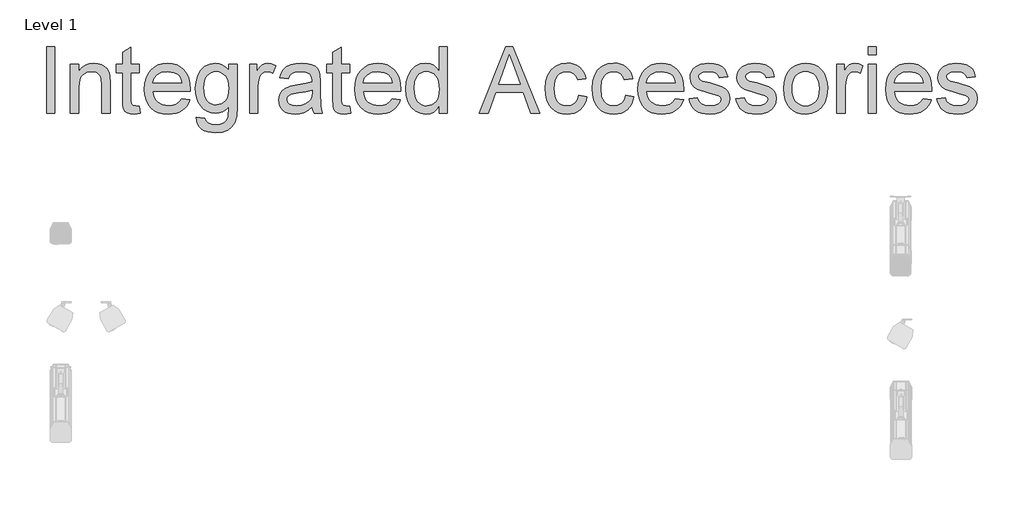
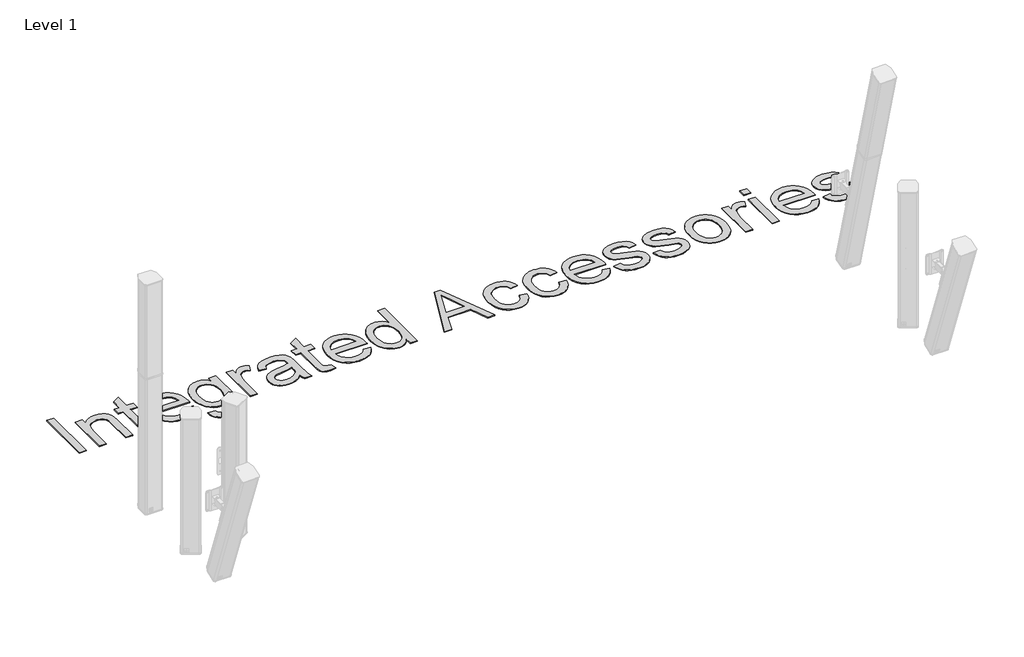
# One storey, part 4 of 8: 1 proxy.
"""IFC4 building model written with IfcOpenShell, lengths in millimetres."""

from ifc_helpers import new_model, si_unit, origin, origin_with_axes, place, context, project, spatial, polyline, outline, extrude, element, save

model = new_model("IFC4")

# Units and contexts
model_context = context("Model", 3, world=origin())
ifc_project = project(units=[si_unit("LENGTHUNIT", "METRE", prefix="MILLI")], contexts=[model_context])

# Site, building, storey
site = spatial("IfcSite", under=ifc_project)
building = spatial("IfcBuilding", under=site)
storey = spatial("IfcBuildingStorey", under=building, Name="Level 1", Elevation=0.0)

# Proxy
placement = place(None, origin())
element("IfcBuildingElementProxy", 1, Name="400mm Arial", ObjectType="400mm Arial", at=placement, inside=storey, context=model_context, shape_type="SweptSolid", body=[
    extrude(outline(polyline([(-11437.7764845, 12851.3054836), (-11437.7764845, 13243.0630593), (-11388.8067875, 13243.0630593), (-11388.8067875, 12851.3054836), (-11437.7764845, 12851.3054836)])), origin_with_axes(), (0.0, 0.0, 1.0), 5.0),
    extrude(outline(polyline([(-11296.9886057, 12851.3054836), (-11296.9886057, 13139.0024533), (-11248.0189088, 13139.0024533), (-11248.0189088, 13098.8319987), (-11231.006243, 13119.0846029), (-11210.5743065, 13133.5507487), (-11186.7230991, 13142.2304362), (-11159.4526209, 13145.1236654), (-11135.3144817, 13142.7923444), (-11113.2087762, 13135.7983813), (-11094.7734069, 13125.0145271), (-11081.6462762, 13111.3135328), (-11072.7394343, 13094.7312648), (-11066.9649315, 13075.3035896), (-11064.3825451, 13027.9598396), (-11064.3825451, 12851.3054836), (-11113.3522421, 12851.3054836), (-11113.3522421, 13021.3604078), (-11114.7629902, 13046.6821408), (-11118.9952345, 13064.6871124), (-11126.8021711, 13077.5870887), (-11138.9369959, 13087.5938358), (-11154.4910915, 13094.0139353), (-11172.5558406, 13096.1539684), (-11201.2370669, 13091.3478605), (-11225.6860489, 13076.9295366), (-11235.4566751, 13065.1593543), (-11242.4356938, 13049.0732393), (-11246.623105, 13028.6711914), (-11248.0189088, 13003.9532108), (-11248.0189088, 12851.3054836), (-11296.9886057, 12851.3054836)])), origin_with_axes(), (0.0, 0.0, 1.0), 5.0),
    extrude(outline(polyline([(-10892.9886057, 12892.1454457), (-10886.8673936, 12849.8708245), (-10923.4990224, 12845.1842715), (-10947.0035205, 12847.2167052), (-10964.5302724, 12853.3140063), (-10976.9161625, 12862.7110233), (-10984.9980754, 12874.6426048), (-10989.4455186, 12895.1343188), (-10990.9279997, 12930.2117336), (-10990.9279997, 13090.0327563), (-11027.6552724, 13090.0327563), (-11027.6552724, 13139.0024533), (-10990.9279997, 13139.0024533), (-10990.9279997, 13208.918173), (-10941.9583027, 13237.7069987), (-10941.9583027, 13139.0024533), (-10892.9886057, 13139.0024533), (-10892.9886057, 13090.0327563), (-10941.9583027, 13090.0327563), (-10941.9583027, 12931.6463927), (-10939.3759163, 12906.3963927), (-10931.0070716, 12897.4536843), (-10914.3172042, 12894.1539684), (-10892.9886057, 12892.1454457)])), origin_with_axes(), (0.0, 0.0, 1.0), 5.0),
    extrude(outline(polyline([(-10642.5927724, 12937.0024533), (-10594.5795148, 12930.8812411), (-10601.9411093, 12911.6508316), (-10611.8791124, 12894.7039211), (-10624.3935241, 12880.0405096), (-10639.4843444, 12867.6605972), (-10656.9961519, 12857.8272047), (-10676.7735252, 12850.8033529), (-10723.1249694, 12845.1842715), (-10753.5098534, 12847.6082475), (-10780.583066, 12854.8801758), (-10804.3446071, 12867.0000563), (-10824.7944769, 12883.9678889), (-10841.2392568, 12905.3114317), (-10852.9855281, 12930.5584429), (-10860.0332909, 12959.7089223), (-10862.3825451, 12992.7628699), (-10860.0093799, 13026.937645), (-10852.8898841, 13057.0595082), (-10841.0240579, 13083.1284594), (-10824.4119012, 13105.1444987), (-10804.0158311, 13122.6353841), (-10780.7982648, 13135.1288737), (-10754.7592023, 13142.6249675), (-10725.8986436, 13145.1236654), (-10697.9676244, 13142.6309452), (-10672.7086578, 13135.1527847), (-10650.1217438, 13122.6891839), (-10630.2068822, 13105.2401427), (-10613.9504014, 13083.2719253), (-10602.3386294, 13057.2507961), (-10595.3715662, 13027.1767549), (-10593.0492118, 12993.0498018), (-10593.3361436, 12979.8509381), (-10813.4128482, 12979.8509381), (-10810.5764076, 12960.3096858), (-10804.936404, 12943.1953983), (-10796.4928375, 12928.5080759), (-10785.245708, 12916.2477184), (-10756.8275025, 12899.6774059), (-10722.16853, 12894.1539684), (-10696.1055565, 12896.7124438), (-10674.1552724, 12904.3878699), (-10656.3176777, 12917.6584665), (-10642.5927724, 12937.0024533)]), holes=[polyline([(-10813.4128482, 13028.8206351), (-10642.0189088, 13028.8206351), (-10648.6422516, 13054.6923207), (-10661.6259163, 13073.199423), (-10674.9802014, 13083.2420366), (-10690.1756322, 13090.4153321), (-10726.0899315, 13096.1539684), (-10759.0990461, 13091.5750148), (-10786.3934353, 13077.838154), (-10805.3668018, 13056.4258671), (-10813.4128482, 13028.8206351)])]), origin_with_axes(), (0.0, 0.0, 1.0), 5.0),
    extrude(outline(polyline([(-10556.3219391, 12826.8206351), (-10507.3522421, 12820.699423), (-10501.9483595, 12805.3963927), (-10491.4753482, 12794.8755593), (-10470.8879902, 12786.6980025), (-10443.9403103, 12783.9721502), (-10415.1993065, 12787.0566673), (-10393.822886, 12796.3102184), (-10378.9980754, 12811.135029), (-10369.9119012, 12830.9333245), (-10366.5643633, 12888.0327563), (-10382.8596995, 12871.9645745), (-10401.0440035, 12860.4873018), (-10421.1172752, 12853.6009381), (-10443.0795148, 12851.3054836), (-10469.9285619, 12853.9775361), (-10493.5675593, 12861.9936938), (-10513.996507, 12875.3539566), (-10531.215405, 12894.0583245), (-10544.8775439, 12916.4987838), (-10554.6362146, 12941.0673207), (-10560.491417, 12967.7639353), (-10562.4431512, 12996.5886275), (-10558.9401919, 13036.125441), (-10548.4313141, 13072.4820934), (-10531.2871379, 13103.2913974), (-10507.8782838, 13126.1861654), (-10479.0057696, 13140.3892904), (-10445.4706133, 13145.1236654), (-10422.5698676, 13142.4456351), (-10401.785244, 13134.4115442), (-10383.1167426, 13121.0213927), (-10366.5643633, 13102.2751805), (-10366.5643633, 13139.0024533), (-10317.5946663, 13139.0024533), (-10317.5946663, 12890.6151427), (-10320.9422042, 12833.2646455), (-10330.9848179, 12795.4972449), (-10348.2844154, 12770.4504883), (-10373.402905, 12751.261923), (-10405.7903339, 12739.0673207), (-10444.8967497, 12735.0024533), (-10490.4591313, 12740.7291341), (-10509.6088413, 12747.8874852), (-10526.3375641, 12757.9091768), (-10539.8502594, 12770.8061642), (-10549.351887, 12786.5904031), (-10554.8424469, 12805.2618934), (-10556.3219391, 12826.8206351)]), holes=[polyline([(-10513.4734542, 12999.9361654), (-10508.248904, 12955.0193804), (-10501.7182163, 12937.8243934), (-10492.5752535, 12924.1383434), (-10481.4596344, 12913.6982097), (-10469.0109779, 12906.2409713), (-10455.229284, 12901.7666282), (-10440.1145527, 12900.2751805), (-10411.4333264, 12906.2051048), (-10387.7494959, 12923.9948775), (-10378.4810004, 12937.5464282), (-10371.8606464, 12954.4813832), (-10366.5643633, 12998.5015063), (-10372.0160679, 13040.9554599), (-10378.8306985, 13057.7260269), (-10388.3711815, 13071.525654), (-10412.4017213, 13089.9968898), (-10426.0847823, 13094.6146988), (-10440.8797042, 13096.1539684), (-10455.4265496, 13094.6386098), (-10468.843601, 13090.0925338), (-10492.2883216, 13071.9082298), (-10501.5568171, 13058.3178238), (-10508.1771711, 13041.7923444), (-10513.4734542, 12999.9361654)])]), origin_with_axes(), (0.0, 0.0, 1.0), 5.0),
    extrude(outline(polyline([(-10244.1401209, 12851.3054836), (-10244.1401209, 13139.0024533), (-10201.291636, 13139.0024533), (-10201.291636, 13096.4409002), (-10185.4625641, 13121.1170366), (-10170.8768633, 13135.6549154), (-10156.2433406, 13142.7564779), (-10140.2708027, 13145.1236654), (-10115.8815982, 13141.3457298), (-10091.1098179, 13130.011923), (-10107.4649315, 13086.1113548), (-10124.6808406, 13093.643315), (-10141.8967497, 13096.1539684), (-10156.5183169, 13093.738959), (-10169.5856701, 13086.4939305), (-10180.1423699, 13074.9688358), (-10187.2319769, 13059.7136275), (-10193.1858122, 13032.3594608), (-10195.1704239, 13002.5185518), (-10195.1704239, 12851.3054836), (-10244.1401209, 12851.3054836)])), origin_with_axes(), (0.0, 0.0, 1.0), 5.0),
    extrude(outline(polyline([(-9876.8673936, 12888.0327563), (-9900.2642923, 12867.97144), (-9924.3546095, 12854.8443093), (-9949.688298, 12847.5992809), (-9976.8153103, 12845.1842715), (-9998.6191396, 12846.6368638), (-10017.7389608, 12850.9946408), (-10034.1747741, 12858.2576024), (-10047.9265792, 12868.4257487), (-10058.7851552, 12880.8534831), (-10066.5412809, 12894.895209), (-10071.1949563, 12910.5509263), (-10072.7461815, 12927.8206351), (-10070.402905, 12948.1210612), (-10063.3730754, 12966.5564305), (-10052.5294438, 12982.3376805), (-10038.744761, 12994.6757487), (-10004.4564088, 13010.7439305), (-9962.0861436, 13018.1085139), (-9912.0165413, 13025.855673), (-9877.1543254, 13034.9418472), (-9876.8673936, 13045.8452563), (-9880.2388425, 13067.6998965), (-9890.3531891, 13081.9986654), (-9912.9729807, 13092.6151427), (-9944.4876588, 13096.1539684), (-9973.6590603, 13093.7987364), (-9994.0312194, 13086.7330404), (-10007.9235016, 13073.6656872), (-10017.6552724, 13053.3054836), (-10066.6249694, 13059.4266957), (-10058.1246143, 13086.2069987), (-10045.4398368, 13107.2486654), (-10027.3870432, 13123.3407582), (-10002.7826398, 13135.2723396), (-9972.6906654, 13142.660834), (-9938.1751588, 13145.1236654), (-9905.0704002, 13142.9477658), (-9878.8280944, 13136.4200669), (-9859.0417544, 13126.6046076), (-9845.3048936, 13114.5654268), (-9836.1948084, 13099.6808387), (-9830.2887951, 13081.3291578), (-9827.8976966, 13038.480673), (-9827.8976966, 12977.5554836), (-9825.4109542, 12892.4801995), (-9815.6552724, 12851.3054836), (-9864.6249694, 12851.3054836), (-9872.4677724, 12868.3301048), (-9876.8673936, 12888.0327563)]), holes=[polyline([(-9876.8673936, 12985.9721502), (-9909.7689088, 12977.8185044), (-9955.8692875, 12970.9560518), (-9998.0004429, 12963.0176048), (-10008.9636294, 12957.5898112), (-10017.0814088, 12950.105673), (-10022.1027156, 12941.1390536), (-10023.7764845, 12931.2638169), (-10020.1300593, 12916.7020271), (-10009.1907838, 12904.7704457), (-9991.1977677, 12896.8080877), (-9966.3901209, 12894.1539684), (-9940.0880375, 12897.0830641), (-9916.8465603, 12905.870351), (-9898.0047042, 12918.8181493), (-9884.9014845, 12934.228779), (-9879.0911152, 12950.105673), (-9877.1543254, 12972.103779), (-9876.8673936, 12985.9721502)])]), origin_with_axes(), (0.0, 0.0, 1.0), 5.0),
    extrude(outline(polyline([(-9656.5037572, 12892.1454457), (-9650.3825451, 12849.8708245), (-9687.0141739, 12845.1842715), (-9710.518672, 12847.2167052), (-9728.0454239, 12853.3140063), (-9740.4313141, 12862.7110233), (-9748.5132269, 12874.6426048), (-9752.9606701, 12895.1343188), (-9754.4431512, 12930.2117336), (-9754.4431512, 13090.0327563), (-9791.1704239, 13090.0327563), (-9791.1704239, 13139.0024533), (-9754.4431512, 13139.0024533), (-9754.4431512, 13208.918173), (-9705.4734542, 13237.7069987), (-9705.4734542, 13139.0024533), (-9656.5037572, 13139.0024533), (-9656.5037572, 13090.0327563), (-9705.4734542, 13090.0327563), (-9705.4734542, 12931.6463927), (-9702.8910679, 12906.3963927), (-9694.5222232, 12897.4536843), (-9677.8323557, 12894.1539684), (-9656.5037572, 12892.1454457)])), origin_with_axes(), (0.0, 0.0, 1.0), 5.0),
    extrude(outline(polyline([(-9406.1079239, 12937.0024533), (-9358.0946663, 12930.8812411), (-9365.4562608, 12911.6508316), (-9375.3942639, 12894.7039211), (-9387.9086756, 12880.0405096), (-9402.9994959, 12867.6605972), (-9420.5113034, 12857.8272047), (-9440.2886768, 12850.8033529), (-9486.6401209, 12845.1842715), (-9517.0250049, 12847.6082475), (-9544.0982175, 12854.8801758), (-9567.8597587, 12867.0000563), (-9588.3096285, 12883.9678889), (-9604.7544083, 12905.3114317), (-9616.5006796, 12930.5584429), (-9623.5484424, 12959.7089223), (-9625.8976966, 12992.7628699), (-9623.5245314, 13026.937645), (-9616.4050357, 13057.0595082), (-9604.5392094, 13083.1284594), (-9587.9270527, 13105.1444987), (-9567.5309826, 13122.6353841), (-9544.3134163, 13135.1288737), (-9518.2743538, 13142.6249675), (-9489.4137951, 13145.1236654), (-9461.4827759, 13142.6309452), (-9436.2238093, 13135.1527847), (-9413.6368953, 13122.6891839), (-9393.7220338, 13105.2401427), (-9377.4655529, 13083.2719253), (-9365.8537809, 13057.2507961), (-9358.8867177, 13027.1767549), (-9356.5643633, 12993.0498018), (-9356.8512951, 12979.8509381), (-9576.9279997, 12979.8509381), (-9574.0915591, 12960.3096858), (-9568.4515555, 12943.1953983), (-9560.007989, 12928.5080759), (-9548.7608595, 12916.2477184), (-9520.342654, 12899.6774059), (-9485.6836815, 12894.1539684), (-9459.620708, 12896.7124438), (-9437.6704239, 12904.3878699), (-9419.8328292, 12917.6584665), (-9406.1079239, 12937.0024533)]), holes=[polyline([(-9576.9279997, 13028.8206351), (-9405.5340603, 13028.8206351), (-9412.1574031, 13054.6923207), (-9425.1410679, 13073.199423), (-9438.4953529, 13083.2420366), (-9453.6907838, 13090.4153321), (-9489.605083, 13096.1539684), (-9522.6141976, 13091.5750148), (-9549.9085868, 13077.838154), (-9568.8819533, 13056.4258671), (-9576.9279997, 13028.8206351)])]), origin_with_axes(), (0.0, 0.0, 1.0), 5.0),
    extrude(outline(polyline([(-9130.0795148, 12851.3054836), (-9130.0795148, 12897.5015063), (-9144.7309708, 12874.6127161), (-9162.4788993, 12858.2635802), (-9183.3233003, 12848.4540986), (-9207.2641739, 12845.1842715), (-9238.9223179, 12849.9186465), (-9267.9024315, 12864.1217715), (-9292.4351019, 12886.8013406), (-9310.7509163, 12916.965048), (-9322.1564561, 12953.3934334), (-9325.9583027, 12994.8670366), (-9322.4553434, 13035.8265536), (-9311.9464656, 13072.8168472), (-9294.4436247, 13103.7337506), (-9269.9587762, 13126.4730972), (-9240.3450214, 13140.4610233), (-9207.4554618, 13145.1236654), (-9183.496655, 13141.788083), (-9162.3115224, 13131.7813358), (-9144.3543728, 13116.4424391), (-9130.0795148, 13097.1104078), (-9130.0795148, 13243.0630593), (-9081.1098179, 13243.0630593), (-9081.1098179, 12851.3054836), (-9130.0795148, 12851.3054836)]), holes=[polyline([(-9276.9886057, 12995.0583245), (-9271.4651682, 12950.763225), (-9264.5608714, 12933.4128167), (-9254.8948557, 12919.2605025), (-9230.816494, 12900.4306019), (-9217.2888543, 12895.7231268), (-9202.7689088, 12894.1539684), (-9174.733279, 12900.1436701), (-9151.2646474, 12918.1127752), (-9141.9961519, 12931.6732925), (-9135.375798, 12948.3960375), (-9130.0795148, 12991.3282108), (-9135.4714419, 13038.2654741), (-9142.2113508, 13056.3362009), (-9151.6472232, 13070.8083245), (-9163.0557518, 13081.8970437), (-9175.7136294, 13089.8175574), (-9189.620856, 13094.5698657), (-9204.7774315, 13096.1539684), (-9219.5843089, 13094.632632), (-9233.1119485, 13090.0686228), (-9245.3603505, 13082.4619407), (-9256.3295148, 13071.8125858), (-9265.3678671, 13057.887426), (-9271.823833, 13040.4533292), (-9276.9886057, 12995.0583245)])]), origin_with_axes(), (0.0, 0.0, 1.0), 5.0),
    extrude(outline(polyline([(-8894.1259163, 12851.3054836), (-8737.7480754, 13243.0630593), (-8696.0473179, 13243.0630593), (-8539.6694769, 12851.3054836), (-8591.4128482, 12851.3054836), (-8636.2698557, 12973.729726), (-8797.6211815, 12973.729726), (-8842.3825451, 12851.3054836), (-8894.1259163, 12851.3054836)]), holes=[polyline([(-8779.6401209, 13022.699423), (-8654.1552724, 13022.699423), (-8689.447886, 13119.0128699), (-8716.8976966, 13194.0933624), (-8741.2869012, 13127.4295366), (-8779.6401209, 13022.699423)])]), origin_with_axes(), (0.0, 0.0, 1.0), 5.0),
    extrude(outline(polyline([(-8309.8370906, 12955.3660896), (-8260.8673936, 12949.2448775), (-8266.1935655, 12926.1378995), (-8274.520566, 12905.6910186), (-8285.848395, 12887.9042348), (-8300.1770527, 12872.777548), (-8316.9027866, 12860.7054895), (-8335.4218444, 12852.0825906), (-8355.734226, 12846.9088512), (-8377.8399315, 12845.1842715), (-8405.3046865, 12847.5903143), (-8429.930012, 12854.8084429), (-8451.715908, 12866.8386571), (-8470.6623747, 12883.6809571), (-8485.9982826, 12905.0185222), (-8496.9525025, 12930.5345319), (-8503.5250345, 12960.2289862), (-8505.7158785, 12994.1018851), (-8501.9738093, 13037.679655), (-8490.7476019, 13075.4470555), (-8471.8579239, 13105.9455167), (-8445.1254429, 13127.7164684), (-8413.1445006, 13140.7718661), (-8378.5094391, 13145.1236654), (-8356.7833205, 13143.6292288), (-8337.1314798, 13139.1459192), (-8319.553917, 13131.6737364), (-8304.0506322, 13121.2126805), (-8290.8846462, 13108.0018614), (-8280.3189798, 13092.2803889), (-8272.353633, 13074.0482629), (-8266.9886057, 13053.3054836), (-8315.9583027, 13047.1842715), (-8324.8412336, 13068.5487364), (-8338.6737383, 13083.8637222), (-8356.6906654, 13093.0814069), (-8378.1268633, 13096.1539684), (-8394.7659199, 13094.6415986), (-8409.7730518, 13090.1044893), (-8423.1482589, 13082.5426403), (-8434.8915413, 13071.9560518), (-8444.4529464, 13058.099636), (-8451.2825214, 13040.7283055), (-8456.7461815, 12995.4409002), (-8451.4020764, 12949.5437648), (-8444.721945, 12932.0558683), (-8435.369761, 12918.2084192), (-8423.8596107, 12907.684597), (-8410.7055802, 12900.1675811), (-8395.9076694, 12895.6573716), (-8379.4658785, 12894.1539684), (-8354.108279, 12897.907993), (-8333.3176777, 12909.1700669), (-8318.1939798, 12928.2271218), (-8309.8370906, 12955.3660896)])), origin_with_axes(), (0.0, 0.0, 1.0), 5.0),
    extrude(outline(polyline([(-8034.3825451, 12955.3660896), (-7985.4128482, 12949.2448775), (-7990.73902, 12926.1378995), (-7999.0660205, 12905.6910186), (-8010.3938496, 12887.9042348), (-8024.7225072, 12872.777548), (-8041.4482411, 12860.7054895), (-8059.9672989, 12852.0825906), (-8080.2796805, 12846.9088512), (-8102.385386, 12845.1842715), (-8129.850141, 12847.5903143), (-8154.4754665, 12854.8084429), (-8176.2613626, 12866.8386571), (-8195.2078292, 12883.6809571), (-8210.5437371, 12905.0185222), (-8221.4979571, 12930.5345319), (-8228.070489, 12960.2289862), (-8230.261333, 12994.1018851), (-8226.5192639, 13037.679655), (-8215.2930565, 13075.4470555), (-8196.4033785, 13105.9455167), (-8169.6708974, 13127.7164684), (-8137.6899552, 13140.7718661), (-8103.0548936, 13145.1236654), (-8081.328775, 13143.6292288), (-8061.6769343, 13139.1459192), (-8044.0993716, 13131.6737364), (-8028.5960868, 13121.2126805), (-8015.4301008, 13108.0018614), (-8004.8644343, 13092.2803889), (-7996.8990875, 13074.0482629), (-7991.5340603, 13053.3054836), (-8040.5037572, 13047.1842715), (-8049.3866881, 13068.5487364), (-8063.2191929, 13083.8637222), (-8081.2361199, 13093.0814069), (-8102.6723179, 13096.1539684), (-8119.3113744, 13094.6415986), (-8134.3185063, 13090.1044893), (-8147.6937134, 13082.5426403), (-8159.4369959, 13071.9560518), (-8168.9984009, 13058.099636), (-8175.827976, 13040.7283055), (-8181.291636, 12995.4409002), (-8175.9475309, 12949.5437648), (-8169.2673995, 12932.0558683), (-8159.9152156, 12918.2084192), (-8148.4050652, 12907.684597), (-8135.2510347, 12900.1675811), (-8120.453124, 12895.6573716), (-8104.011333, 12894.1539684), (-8078.6537336, 12897.907993), (-8057.8631322, 12909.1700669), (-8042.7394343, 12928.2271218), (-8034.3825451, 12955.3660896)])), origin_with_axes(), (0.0, 0.0, 1.0), 5.0),
    extrude(outline(polyline([(-7741.1382269, 12937.0024533), (-7693.1249694, 12930.8812411), (-7700.4865638, 12911.6508316), (-7710.4245669, 12894.7039211), (-7722.9389786, 12880.0405096), (-7738.0297989, 12867.6605972), (-7755.5416064, 12857.8272047), (-7775.3189798, 12850.8033529), (-7821.6704239, 12845.1842715), (-7852.0553079, 12847.6082475), (-7879.1285205, 12854.8801758), (-7902.8900617, 12867.0000563), (-7923.3399315, 12883.9678889), (-7939.7847113, 12905.3114317), (-7951.5309826, 12930.5584429), (-7958.5787454, 12959.7089223), (-7960.9279997, 12992.7628699), (-7958.5548344, 13026.937645), (-7951.4353387, 13057.0595082), (-7939.5695125, 13083.1284594), (-7922.9573557, 13105.1444987), (-7902.5612857, 13122.6353841), (-7879.3437194, 13135.1288737), (-7853.3046569, 13142.6249675), (-7824.4440982, 13145.1236654), (-7796.513079, 13142.6309452), (-7771.2541124, 13135.1527847), (-7748.6671983, 13122.6891839), (-7728.7523368, 13105.2401427), (-7712.495856, 13083.2719253), (-7700.8840839, 13057.2507961), (-7693.9170207, 13027.1767549), (-7691.5946663, 12993.0498018), (-7691.8815982, 12979.8509381), (-7911.9583027, 12979.8509381), (-7909.1218621, 12960.3096858), (-7903.4818586, 12943.1953983), (-7895.038292, 12928.5080759), (-7883.7911625, 12916.2477184), (-7855.3729571, 12899.6774059), (-7820.7139845, 12894.1539684), (-7794.651011, 12896.7124438), (-7772.7007269, 12904.3878699), (-7754.8631322, 12917.6584665), (-7741.1382269, 12937.0024533)]), holes=[polyline([(-7911.9583027, 13028.8206351), (-7740.5643633, 13028.8206351), (-7747.1877061, 13054.6923207), (-7760.1713709, 13073.199423), (-7773.5256559, 13083.2420366), (-7788.7210868, 13090.4153321), (-7824.635386, 13096.1539684), (-7857.6445006, 13091.5750148), (-7884.9388898, 13077.838154), (-7903.9122563, 13056.4258671), (-7911.9583027, 13028.8206351)])]), origin_with_axes(), (0.0, 0.0, 1.0), 5.0),
    extrude(outline(polyline([(-7660.9886057, 12937.0024533), (-7612.0189088, 12943.1236654), (-7604.2956607, 12922.1776427), (-7589.3512951, 12906.7789684), (-7567.0901682, 12897.3102184), (-7537.416636, 12894.1539684), (-7508.1017686, 12897.0471976), (-7487.4904997, 12905.7268851), (-7475.2958974, 12918.3040631), (-7471.23103, 12932.8897639), (-7475.3198084, 12945.371298), (-7487.5861436, 12954.8878699), (-7537.9904997, 12968.8518851), (-7611.7319769, 12992.8106919), (-7630.3945006, 13004.8498728), (-7643.9161625, 13020.7865442), (-7652.1295858, 13039.6044893), (-7654.8673936, 13060.2874911), (-7652.667583, 13079.2608576), (-7646.0681512, 13096.775654), (-7635.6668728, 13112.1384618), (-7622.0615224, 13124.6558624), (-7590.9294201, 13139.1459192), (-7548.7982648, 13145.1236654), (-7516.924922, 13142.7206114), (-7489.2120906, 13135.5114495), (-7466.9270527, 13124.2015536), (-7451.3370906, 13109.496298), (-7441.0075451, 13090.3077326), (-7434.5037572, 13065.5479078), (-7483.4734542, 13059.4266957), (-7489.6544438, 13074.8373254), (-7501.8849125, 13086.4461086), (-7520.2844154, 13093.7270035), (-7544.9725072, 13096.1539684), (-7573.0918254, 13093.8346029), (-7591.8380375, 13086.8765063), (-7602.3827819, 13076.8338927), (-7605.8976966, 13065.260976), (-7600.0634163, 13051.010029), (-7581.7954239, 13040.2022639), (-7539.6164466, 13029.7770745), (-7467.7400262, 13006.7268851), (-7448.7547042, 12995.7039211), (-7434.3602913, 12980.6160896), (-7425.2860726, 12961.4155688), (-7422.261333, 12938.0545366), (-7425.8121143, 12913.9044419), (-7436.464458, 12891.1890063), (-7453.8118775, 12871.6895982), (-7477.447886, 12857.1875858), (-7505.9976019, 12848.1851), (-7538.0861436, 12845.1842715), (-7564.4420267, 12846.630886), (-7587.4623273, 12850.9707298), (-7607.1470456, 12858.2038027), (-7623.4961815, 12868.3301048), (-7636.8504665, 12881.3018141), (-7647.5506322, 12897.0711086), (-7655.5966786, 12915.6379883), (-7660.9886057, 12937.0024533)])), origin_with_axes(), (0.0, 0.0, 1.0), 5.0),
    extrude(outline(polyline([(-7385.5340603, 12937.0024533), (-7336.5643633, 12943.1236654), (-7328.8411152, 12922.1776427), (-7313.8967497, 12906.7789684), (-7291.6356228, 12897.3102184), (-7261.9620906, 12894.1539684), (-7232.6472232, 12897.0471976), (-7212.0359542, 12905.7268851), (-7199.8413519, 12918.3040631), (-7195.7764845, 12932.8897639), (-7199.8652629, 12945.371298), (-7212.1315982, 12954.8878699), (-7262.5359542, 12968.8518851), (-7336.2774315, 12992.8106919), (-7354.9399552, 13004.8498728), (-7368.4616171, 13020.7865442), (-7376.6750404, 13039.6044893), (-7379.4128482, 13060.2874911), (-7377.2130375, 13079.2608576), (-7370.6136057, 13096.775654), (-7360.2123273, 13112.1384618), (-7346.6069769, 13124.6558624), (-7315.4748747, 13139.1459192), (-7273.3437194, 13145.1236654), (-7241.4703766, 13142.7206114), (-7213.7575451, 13135.5114495), (-7191.4725072, 13124.2015536), (-7175.8825451, 13109.496298), (-7165.5529997, 13090.3077326), (-7159.0492118, 13065.5479078), (-7208.0189088, 13059.4266957), (-7214.1998983, 13074.8373254), (-7226.4303671, 13086.4461086), (-7244.8298699, 13093.7270035), (-7269.5179618, 13096.1539684), (-7297.63728, 13093.8346029), (-7316.3834921, 13086.8765063), (-7326.9282364, 13076.8338927), (-7330.4431512, 13065.260976), (-7324.6088709, 13051.010029), (-7306.3408785, 13040.2022639), (-7264.1619012, 13029.7770745), (-7192.2854807, 13006.7268851), (-7173.3001588, 12995.7039211), (-7158.9057459, 12980.6160896), (-7149.8315271, 12961.4155688), (-7146.8067875, 12938.0545366), (-7150.3575688, 12913.9044419), (-7161.0099125, 12891.1890063), (-7178.3573321, 12871.6895982), (-7201.9933406, 12857.1875858), (-7230.5430565, 12848.1851), (-7262.6315982, 12845.1842715), (-7288.9874812, 12846.630886), (-7312.0077819, 12850.9707298), (-7331.6925001, 12858.2038027), (-7348.041636, 12868.3301048), (-7361.3959211, 12881.3018141), (-7372.0960868, 12897.0711086), (-7380.1421332, 12915.6379883), (-7385.5340603, 12937.0024533)])), origin_with_axes(), (0.0, 0.0, 1.0), 5.0),
    extrude(outline(polyline([(-7103.9583027, 12995.1539684), (-7101.3101611, 13032.4132606), (-7093.3657364, 13064.5197355), (-7080.1250286, 13091.4733931), (-7061.5880375, 13113.2742336), (-7042.9255139, 13127.20836), (-7022.3262004, 13137.1613074), (-6999.7900972, 13143.1330759), (-6975.3172042, 13145.1236654), (-6948.3007802, 13142.6996893), (-6923.8727203, 13135.427761), (-6902.0330245, 13123.3078806), (-6882.7816929, 13106.340048), (-6867.0691869, 13085.0981268), (-6855.8459684, 13060.1559807), (-6849.1120373, 13031.5136098), (-6846.8673936, 12999.1710139), (-6850.8366171, 12949.6991862), (-6862.7442875, 12912.0393851), (-6882.2436957, 12883.8363785), (-6908.9881322, 12862.7349343), (-6940.7538756, 12849.5719372), (-6975.3172042, 12845.1842715), (-7002.7281595, 12847.5992809), (-7027.3833737, 12854.8443093), (-7049.282847, 12866.9193567), (-7068.4265792, 12883.824423), (-7083.9717082, 12905.2725764), (-7095.0753718, 12930.9768851), (-7101.73757, 12960.9373491), (-7103.9583027, 12995.1539684)]), holes=[polyline([(-7054.9886057, 12995.2496124), (-7053.5718799, 12971.4970378), (-7049.3217023, 12950.9306019), (-7042.2380731, 12933.5503048), (-7032.3209921, 12919.3561465), (-7020.2579002, 12908.3301936), (-7006.7362383, 12900.4545129), (-6991.7560063, 12895.7291045), (-6975.3172042, 12894.1539684), (-6958.9620906, 12895.7380712), (-6944.041636, 12900.4903794), (-6930.5558406, 12908.4108931), (-6918.5047042, 12919.4996124), (-6908.5876232, 12933.8342478), (-6901.503994, 12951.4925101), (-6897.2538164, 12972.4743993), (-6895.8370906, 12996.7799154), (-6897.262783, 13019.7792939), (-6901.5398605, 13039.8077326), (-6908.6683228, 13056.8652314), (-6918.6481701, 13070.9517904), (-6930.7441396, 13081.9777433), (-6944.2209684, 13089.8534239), (-6959.0786566, 13094.5788323), (-6975.3172042, 13096.1539684), (-6991.7560063, 13094.58481), (-7006.7362383, 13089.8773349), (-7020.2579002, 13082.031543), (-7032.3209921, 13071.0474343), (-7042.2380731, 13056.8951202), (-7049.3217023, 13039.5447118), (-7053.5718799, 13018.9962092), (-7054.9886057, 12995.2496124)])]), origin_with_axes(), (0.0, 0.0, 1.0), 5.0),
    extrude(outline(polyline([(-6791.7764845, 12851.3054836), (-6791.7764845, 13139.0024533), (-6748.9279997, 13139.0024533), (-6748.9279997, 13096.4409002), (-6733.0989277, 13121.1170366), (-6718.5132269, 13135.6549154), (-6703.8797042, 13142.7564779), (-6687.9071663, 13145.1236654), (-6663.5179618, 13141.3457298), (-6638.7461815, 13130.011923), (-6655.1012951, 13086.1113548), (-6672.3172042, 13093.643315), (-6689.5331133, 13096.1539684), (-6704.1546805, 13093.738959), (-6717.2220338, 13086.4939305), (-6727.7787336, 13074.9688358), (-6734.8683406, 13059.7136275), (-6740.8221758, 13032.3594608), (-6742.8067875, 13002.5185518), (-6742.8067875, 12851.3054836), (-6791.7764845, 12851.3054836)])), origin_with_axes(), (0.0, 0.0, 1.0), 5.0),
    extrude(outline(polyline([(-6608.1401209, 12851.3054836), (-6608.1401209, 13139.0024533), (-6559.1704239, 13139.0024533), (-6559.1704239, 12851.3054836), (-6608.1401209, 12851.3054836)])), origin_with_axes(), (0.0, 0.0, 1.0), 5.0),
    extrude(outline(polyline([(-6608.1401209, 13194.0933624), (-6608.1401209, 13243.0630593), (-6559.1704239, 13243.0630593), (-6559.1704239, 13194.0933624), (-6608.1401209, 13194.0933624)])), origin_with_axes(), (0.0, 0.0, 1.0), 5.0),
    extrude(outline(polyline([(-6284.2897421, 12937.0024533), (-6236.2764845, 12930.8812411), (-6243.638079, 12911.6508316), (-6253.5760821, 12894.7039211), (-6266.0904938, 12880.0405096), (-6281.1813141, 12867.6605972), (-6298.6931216, 12857.8272047), (-6318.4704949, 12850.8033529), (-6364.8219391, 12845.1842715), (-6395.2068231, 12847.6082475), (-6422.2800357, 12854.8801758), (-6446.0415768, 12867.0000563), (-6466.4914466, 12883.9678889), (-6482.9362265, 12905.3114317), (-6494.6824978, 12930.5584429), (-6501.7302606, 12959.7089223), (-6504.0795148, 12992.7628699), (-6501.7063496, 13026.937645), (-6494.5868538, 13057.0595082), (-6482.7210276, 13083.1284594), (-6466.1088709, 13105.1444987), (-6445.7128008, 13122.6353841), (-6422.4952345, 13135.1288737), (-6396.456172, 13142.6249675), (-6367.5956133, 13145.1236654), (-6339.6645941, 13142.6309452), (-6314.4056275, 13135.1527847), (-6291.8187134, 13122.6891839), (-6271.9038519, 13105.2401427), (-6255.6473711, 13083.2719253), (-6244.0355991, 13057.2507961), (-6237.0685359, 13027.1767549), (-6234.7461815, 12993.0498018), (-6235.0331133, 12979.8509381), (-6455.1098179, 12979.8509381), (-6452.2733773, 12960.3096858), (-6446.6333737, 12943.1953983), (-6438.1898072, 12928.5080759), (-6426.9426777, 12916.2477184), (-6398.5244722, 12899.6774059), (-6363.8654997, 12894.1539684), (-6337.8025262, 12896.7124438), (-6315.8522421, 12904.3878699), (-6298.0146474, 12917.6584665), (-6284.2897421, 12937.0024533)]), holes=[polyline([(-6455.1098179, 13028.8206351), (-6283.7158785, 13028.8206351), (-6290.3392213, 13054.6923207), (-6303.322886, 13073.199423), (-6316.6771711, 13083.2420366), (-6331.8726019, 13090.4153321), (-6367.7869012, 13096.1539684), (-6400.7960158, 13091.5750148), (-6428.090405, 13077.838154), (-6447.0637714, 13056.4258671), (-6455.1098179, 13028.8206351)])]), origin_with_axes(), (0.0, 0.0, 1.0), 5.0),
    extrude(outline(polyline([(-6204.1401209, 12937.0024533), (-6155.1704239, 12943.1236654), (-6147.4471758, 12922.1776427), (-6132.5028103, 12906.7789684), (-6110.2416834, 12897.3102184), (-6080.5681512, 12894.1539684), (-6051.2532838, 12897.0471976), (-6030.6420148, 12905.7268851), (-6018.4474125, 12918.3040631), (-6014.3825451, 12932.8897639), (-6018.4713235, 12945.371298), (-6030.7376588, 12954.8878699), (-6081.1420148, 12968.8518851), (-6154.8834921, 12992.8106919), (-6173.5460158, 13004.8498728), (-6187.0676777, 13020.7865442), (-6195.281101, 13039.6044893), (-6198.0189088, 13060.2874911), (-6195.8190982, 13079.2608576), (-6189.2196663, 13096.775654), (-6178.8183879, 13112.1384618), (-6165.2130375, 13124.6558624), (-6134.0809353, 13139.1459192), (-6091.94978, 13145.1236654), (-6060.0764372, 13142.7206114), (-6032.3636057, 13135.5114495), (-6010.0785679, 13124.2015536), (-5994.4886057, 13109.496298), (-5984.1590603, 13090.3077326), (-5977.6552724, 13065.5479078), (-6026.6249694, 13059.4266957), (-6032.8059589, 13074.8373254), (-6045.0364277, 13086.4461086), (-6063.4359305, 13093.7270035), (-6088.1240224, 13096.1539684), (-6116.2433406, 13093.8346029), (-6134.9895527, 13086.8765063), (-6145.534297, 13076.8338927), (-6149.0492118, 13065.260976), (-6143.2149315, 13051.010029), (-6124.9469391, 13040.2022639), (-6082.7679618, 13029.7770745), (-6010.8915413, 13006.7268851), (-5991.9062194, 12995.7039211), (-5977.5118065, 12980.6160896), (-5968.4375877, 12961.4155688), (-5965.4128482, 12938.0545366), (-5968.9636294, 12913.9044419), (-5979.6159732, 12891.1890063), (-5996.9633927, 12871.6895982), (-6020.5994012, 12857.1875858), (-6049.1491171, 12848.1851), (-6081.2376588, 12845.1842715), (-6107.5935418, 12846.630886), (-6130.6138425, 12850.9707298), (-6150.2985607, 12858.2038027), (-6166.6476966, 12868.3301048), (-6180.0019817, 12881.3018141), (-6190.7021474, 12897.0711086), (-6198.7481938, 12915.6379883), (-6204.1401209, 12937.0024533)])), origin_with_axes(), (0.0, 0.0, 1.0), 5.0),
])

save(model, "model.ifc")
